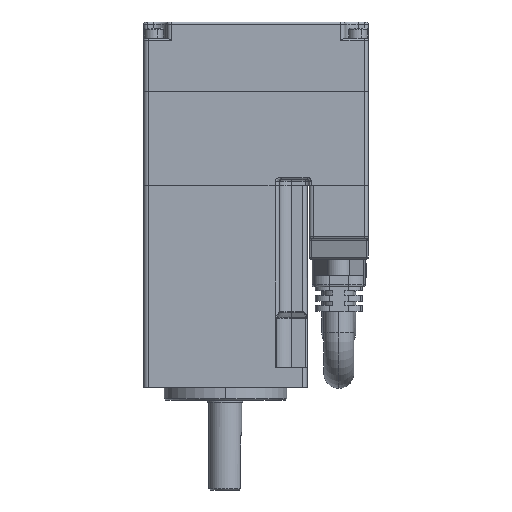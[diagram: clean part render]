
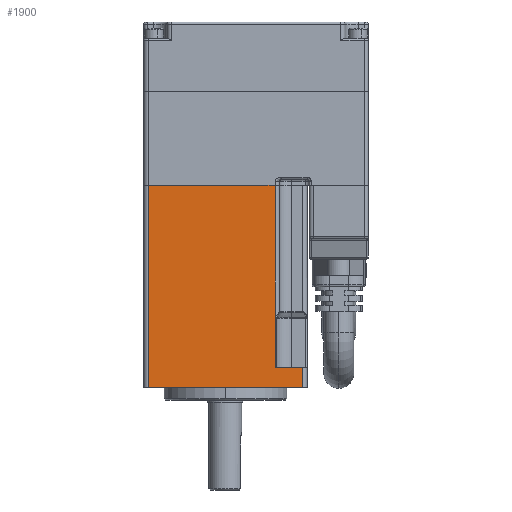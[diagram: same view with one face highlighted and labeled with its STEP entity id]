
A CAD part, left-side view. The second image highlights one B-rep face of the part: STEP entity #1900.
In plain terms, the highlighted planar face has unit normal (-1, 0, 0).
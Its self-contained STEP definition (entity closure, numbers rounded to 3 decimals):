
#649=DIRECTION('',(0.,-1.,0.));
#650=VECTOR('',#649,37.8);
#651=CARTESIAN_POINT('',(-20.,18.9,-2.5));
#652=LINE('',#651,#650);
#653=DIRECTION('',(0.,-1.,0.));
#654=VECTOR('',#653,31.06);
#655=CARTESIAN_POINT('',(-20.,18.9,47.));
#656=LINE('',#655,#654);
#657=DIRECTION('',(0.,-1.,0.));
#658=VECTOR('',#657,6.74);
#659=CARTESIAN_POINT('',(-20.,-12.16,2.5));
#660=LINE('',#659,#658);
#712=DIRECTION('',(0.,0.,-1.));
#713=VECTOR('',#712,12.034);
#714=CARTESIAN_POINT('',(-20.,-12.16,14.534));
#715=LINE('',#714,#713);
#856=DIRECTION('',(0.,0.,-1.));
#857=VECTOR('',#856,32.466);
#858=CARTESIAN_POINT('',(-20.,-12.16,47.));
#859=LINE('',#858,#857);
#1158=DIRECTION('',(0.,0.,1.));
#1159=VECTOR('',#1158,49.5);
#1160=CARTESIAN_POINT('',(-20.,18.9,-2.5));
#1161=LINE('',#1160,#1159);
#1286=DIRECTION('',(0.,0.,-1.));
#1287=VECTOR('',#1286,5.);
#1288=CARTESIAN_POINT('',(-20.,-18.9,2.5));
#1289=LINE('',#1288,#1287);
#1464=CARTESIAN_POINT('',(-20.,-12.16,2.5));
#1465=CARTESIAN_POINT('',(-20.,-18.9,2.5));
#1466=VERTEX_POINT('',#1464);
#1467=VERTEX_POINT('',#1465);
#1482=CARTESIAN_POINT('',(-20.,18.9,-2.5));
#1483=CARTESIAN_POINT('',(-20.,-18.9,-2.5));
#1484=VERTEX_POINT('',#1482);
#1485=VERTEX_POINT('',#1483);
#1589=CARTESIAN_POINT('',(-20.,-12.16,14.534));
#1590=VERTEX_POINT('',#1589);
#1647=CARTESIAN_POINT('',(-20.,-12.16,47.));
#1648=VERTEX_POINT('',#1647);
#1661=CARTESIAN_POINT('',(-20.,18.9,47.));
#1662=VERTEX_POINT('',#1661);
#1880=CARTESIAN_POINT('',(-20.,20.,47.));
#1881=DIRECTION('',(1.,0.,0.));
#1882=DIRECTION('',(0.,1.,0.));
#1883=AXIS2_PLACEMENT_3D('',#1880,#1881,#1882);
#1884=PLANE('',#1883);
#1886=ORIENTED_EDGE('',*,*,#1885,.T.);
#1888=ORIENTED_EDGE('',*,*,#1887,.T.);
#1889=ORIENTED_EDGE('',*,*,#1831,.F.);
#1891=ORIENTED_EDGE('',*,*,#1890,.T.);
#1893=ORIENTED_EDGE('',*,*,#1892,.T.);
#1895=ORIENTED_EDGE('',*,*,#1894,.T.);
#1897=ORIENTED_EDGE('',*,*,#1896,.T.);
#1898=EDGE_LOOP('',(#1886,#1888,#1889,#1891,#1893,#1895,#1897));
#1899=FACE_OUTER_BOUND('',#1898,.F.);
#1900=ADVANCED_FACE('',(#1899),#1884,.F.);
#1831=EDGE_CURVE('',#1484,#1485,#652,.T.);
#1885=EDGE_CURVE('',#1466,#1467,#660,.T.);
#1887=EDGE_CURVE('',#1467,#1485,#1289,.T.);
#1890=EDGE_CURVE('',#1484,#1662,#1161,.T.);
#1892=EDGE_CURVE('',#1662,#1648,#656,.T.);
#1894=EDGE_CURVE('',#1648,#1590,#859,.T.);
#1896=EDGE_CURVE('',#1590,#1466,#715,.T.);
